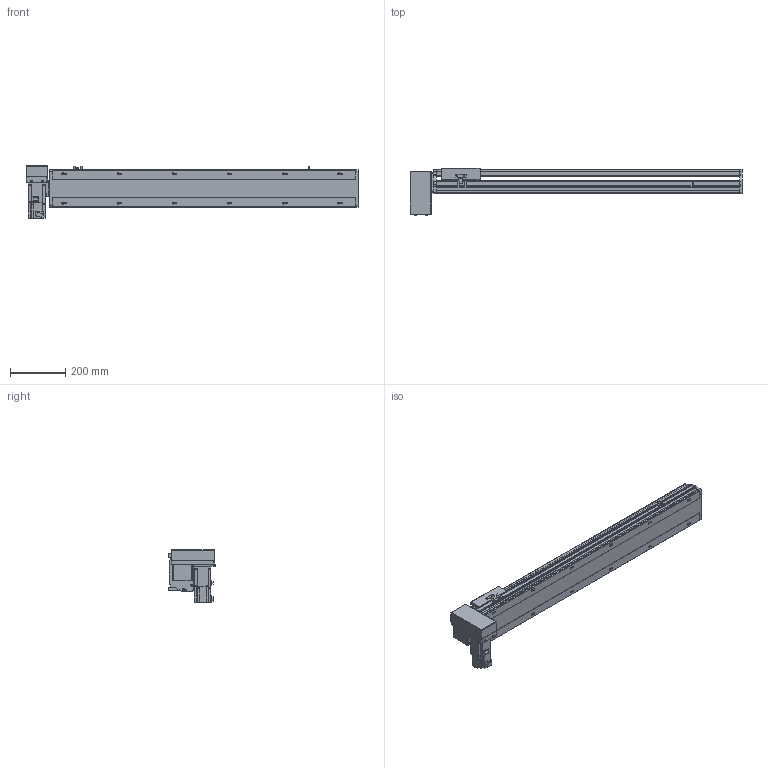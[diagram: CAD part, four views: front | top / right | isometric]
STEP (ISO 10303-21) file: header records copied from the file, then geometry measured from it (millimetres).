
FILE_DESCRIPTION( ( 'STEP AP214' ), '1' );
FILE_NAME( 'x:/temp/worker_6/temp/exporttempdir_5396_170_62aQ9/format_0/PBS140S-P40-S850-RD-T40-C1-N(0).stp', '2022-06-09T00:42:51', ( 'License CC BY-ND 4.0' ), ( 'CADENAS' ), ' ', 'PARTsolutions', ' ' );
FILE_SCHEMA( ( 'AUTOMOTIVE_DESIGN { 1 0 10303 214 1 1 1 1 }' ) );
Length unit declared in the file: millimetre
Products named in the file (7): PBS140S-P40-S850-RD-T40-C1-N(0); _PBS140S-S850()_body; _PBS140ST-RD_motors; _T40-p1; _PBS140S_sliser; _PBS140S_plant; _PBS140S_sensor
Assembly tree (8 placements, depth 2):
  PBS140S-P40-S850-RD-T40-C1-N(0)
    _PBS140S-S850()_body
    _PBS140ST-RD_motors
    _T40-p1
    _PBS140S_sliser
    _PBS140S_plant
    _PBS140S_sensor  x3
Bounding box: 1204 x 172.5 x 189.7 mm (x, y, z)
Volume: 6357883.3 mm3; surface area: 1106716.8 mm2
Topology: 8 solids, 8 shells, 1067 faces, 2831 edges, 1853 vertices
Faces by surface type: plane 690, cylinder 329, cone 38, sphere 8, torus 2
Full cylindrical faces by diameter (mm): 3.242 x4, 4 x2, 4.134 x4, 4.4 x8, 4.5 x2, 4.8 x4, 4.917 x20, 5.5 x7, 6 x2, 7 x14, 7.5 x8, 8 x12, 8.5 x4, 10.5 x12, 14 x1, 30 x2, 50 x2
Entity records: 39052 total; most frequent: CARTESIAN_POINT 6070, DIRECTION 5208, ORIENTED_EDGE 4942, EDGE_CURVE 2471, AXIS2_PLACEMENT_3D 1799, VERTEX_POINT 1705, LINE 1610, VECTOR 1610
